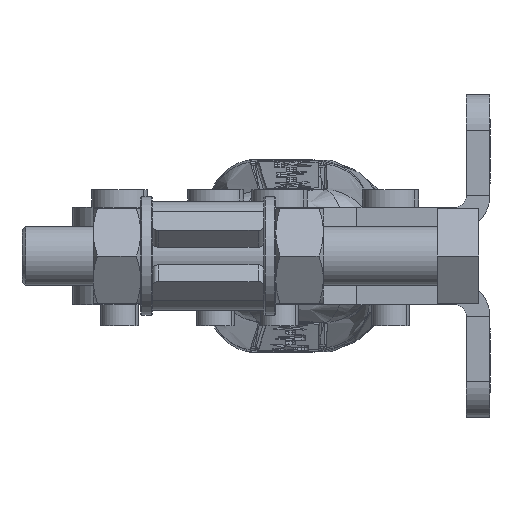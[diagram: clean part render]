
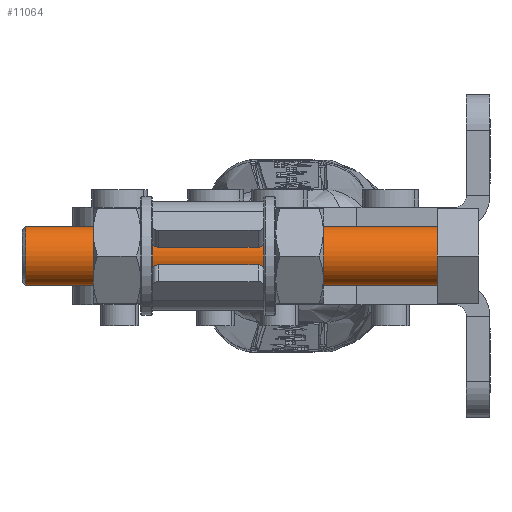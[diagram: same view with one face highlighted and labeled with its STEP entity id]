
A CAD part, left-side view. The second image highlights one B-rep face of the part: STEP entity #11064.
In plain terms, the highlighted cylindrical face has radius 2.5 mm (diameter 5 mm), a partial arc.
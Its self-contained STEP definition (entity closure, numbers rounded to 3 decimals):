
#329 = DIRECTION ( 'NONE',  ( 0., 0., -1. ) ) ;
#1945 = CARTESIAN_POINT ( 'NONE',  ( 0., -34.7, -2.5 ) ) ;
#6958 = ORIENTED_EDGE ( 'NONE', *, *, #15066, .F. ) ;
#7972 = CARTESIAN_POINT ( 'NONE',  ( 0., -34.7, 2.5 ) ) ;
#9228 = ORIENTED_EDGE ( 'NONE', *, *, #23177, .T. ) ;
#9809 = LINE ( 'NONE', #18112, #31203 ) ;
#10074 = VERTEX_POINT ( 'NONE', #1945 ) ;
#10175 = EDGE_CURVE ( 'NONE', #10074, #34111, #23723, .T. ) ;
#10520 = ORIENTED_EDGE ( 'NONE', *, *, #10175, .T. ) ;
#10693 = AXIS2_PLACEMENT_3D ( 'NONE', #30345, #13621, #21700 ) ;
#11064 = ADVANCED_FACE ( 'NONE', ( #34184 ), #32417, .T. ) ;
#13256 = CARTESIAN_POINT ( 'NONE',  ( 0., 0., 0. ) ) ;
#13391 = CARTESIAN_POINT ( 'NONE',  ( 0., 0., -2.5 ) ) ;
#13606 = EDGE_CURVE ( 'NONE', #22721, #25191, #22693, .T. ) ;
#13621 = DIRECTION ( 'NONE',  ( 0., 1., 0. ) ) ;
#13720 = DIRECTION ( 'NONE',  ( 0., 1., 0. ) ) ;
#15066 = EDGE_CURVE ( 'NONE', #10074, #25191, #20867, .T. ) ;
#15669 = CARTESIAN_POINT ( 'NONE',  ( 0., 0., 2.5 ) ) ;
#16060 = DIRECTION ( 'NONE',  ( 0., 0., 1. ) ) ;
#17138 = DIRECTION ( 'NONE',  ( 0., 1., 0. ) ) ;
#17225 = AXIS2_PLACEMENT_3D ( 'NONE', #33869, #17138, #329 ) ;
#18112 = CARTESIAN_POINT ( 'NONE',  ( 0., -35., 2.5 ) ) ;
#18715 = ORIENTED_EDGE ( 'NONE', *, *, #13606, .T. ) ;
#20867 = LINE ( 'NONE', #36179, #21752 ) ;
#21700 = DIRECTION ( 'NONE',  ( 0., 0., 1. ) ) ;
#21752 = VECTOR ( 'NONE', #13720, 1000. ) ;
#22693 = CIRCLE ( 'NONE', #34198, 2.5 ) ;
#22721 = VERTEX_POINT ( 'NONE', #15669 ) ;
#23177 = EDGE_CURVE ( 'NONE', #34111, #22721, #9809, .T. ) ;
#23723 = CIRCLE ( 'NONE', #17225, 2.5 ) ;
#25191 = VERTEX_POINT ( 'NONE', #13391 ) ;
#28697 = EDGE_LOOP ( 'NONE', ( #6958, #10520, #9228, #18715 ) ) ;
#30345 = CARTESIAN_POINT ( 'NONE',  ( 0., -35., 0. ) ) ;
#31203 = VECTOR ( 'NONE', #34846, 1000. ) ;
#32417 = CYLINDRICAL_SURFACE ( 'NONE', #10693, 2.5 ) ;
#32813 = DIRECTION ( 'NONE',  ( 0., -1., 0. ) ) ;
#33869 = CARTESIAN_POINT ( 'NONE',  ( 0., -34.7, 0. ) ) ;
#34111 = VERTEX_POINT ( 'NONE', #7972 ) ;
#34184 = FACE_OUTER_BOUND ( 'NONE', #28697, .T. ) ;
#34198 = AXIS2_PLACEMENT_3D ( 'NONE', #13256, #32813, #16060 ) ;
#34846 = DIRECTION ( 'NONE',  ( 0., 1., 0. ) ) ;
#36179 = CARTESIAN_POINT ( 'NONE',  ( 0., -35., -2.5 ) ) ;
